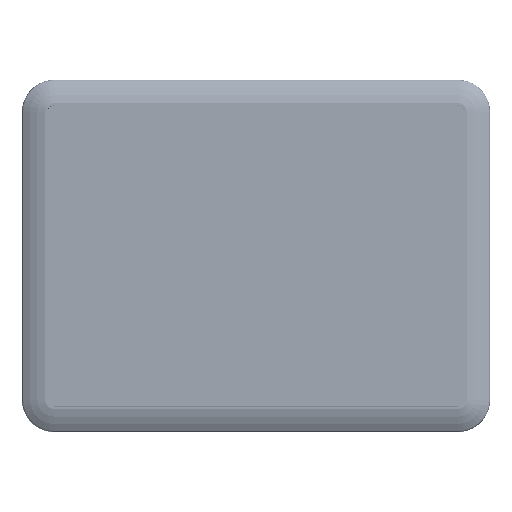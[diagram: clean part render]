
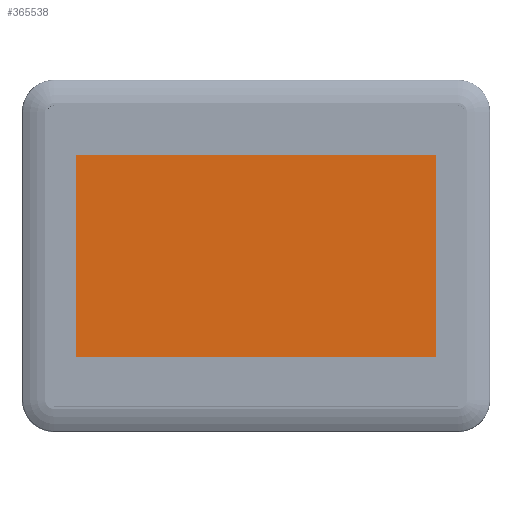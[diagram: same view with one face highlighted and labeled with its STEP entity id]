
A CAD part, top view. The second image highlights one B-rep face of the part: STEP entity #365538.
In plain terms, the highlighted planar face has unit normal (0, 0, 1).
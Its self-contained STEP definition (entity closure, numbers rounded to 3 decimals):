
#197 = ORIENTED_EDGE ( 'NONE', *, *, #184097, .T. ) ;
#7086 = VECTOR ( 'NONE', #463996, 1000. ) ;
#15490 = LINE ( 'NONE', #349137, #7086 ) ;
#39473 = LINE ( 'NONE', #102336, #431614 ) ;
#48813 = ORIENTED_EDGE ( 'NONE', *, *, #399027, .T. ) ;
#102336 = CARTESIAN_POINT ( 'NONE',  ( 77.85, 0., 1.388 ) ) ;
#121057 = VECTOR ( 'NONE', #575183, 1000. ) ;
#122326 = EDGE_CURVE ( 'NONE', #720688, #709010, #460267, .T. ) ;
#134745 = FACE_OUTER_BOUND ( 'NONE', #689350, .T. ) ;
#157110 = VERTEX_POINT ( 'NONE', #329094 ) ;
#184097 = EDGE_CURVE ( 'NONE', #713428, #720688, #39473, .T. ) ;
#197771 = AXIS2_PLACEMENT_3D ( 'NONE', #479361, #360891, #371829 ) ;
#322398 = DIRECTION ( 'NONE',  ( 1., 0., 0. ) ) ;
#324786 = DIRECTION ( 'NONE',  ( 0., 1., 0. ) ) ;
#329094 = CARTESIAN_POINT ( 'NONE',  ( -77.85, -43.75, 1.388 ) ) ;
#349137 = CARTESIAN_POINT ( 'NONE',  ( -77.85, 0., 1.388 ) ) ;
#360891 = DIRECTION ( 'NONE',  ( 0., 0., -1. ) ) ;
#365538 = ADVANCED_FACE ( 'NONE', ( #134745 ), #475712, .F. ) ;
#371829 = DIRECTION ( 'NONE',  ( -1., 0., 0. ) ) ;
#374917 = CARTESIAN_POINT ( 'NONE',  ( 77.85, -43.75, 1.388 ) ) ;
#399027 = EDGE_CURVE ( 'NONE', #157110, #713428, #489208, .T. ) ;
#431614 = VECTOR ( 'NONE', #324786, 1000. ) ;
#448704 = CARTESIAN_POINT ( 'NONE',  ( 77.85, 43.75, 1.388 ) ) ;
#460267 = LINE ( 'NONE', #690039, #121057 ) ;
#463996 = DIRECTION ( 'NONE',  ( 0., -1., 0. ) ) ;
#475712 = PLANE ( 'NONE',  #197771 ) ;
#479361 = CARTESIAN_POINT ( 'NONE',  ( 0., 0., 1.388 ) ) ;
#489208 = LINE ( 'NONE', #711685, #657861 ) ;
#497984 = EDGE_CURVE ( 'NONE', #709010, #157110, #15490, .T. ) ;
#569180 = ORIENTED_EDGE ( 'NONE', *, *, #122326, .T. ) ;
#575183 = DIRECTION ( 'NONE',  ( -1., 0., 0. ) ) ;
#647855 = ORIENTED_EDGE ( 'NONE', *, *, #497984, .T. ) ;
#657861 = VECTOR ( 'NONE', #322398, 1000. ) ;
#689350 = EDGE_LOOP ( 'NONE', ( #569180, #647855, #48813, #197 ) ) ;
#690039 = CARTESIAN_POINT ( 'NONE',  ( 0., 43.75, 1.388 ) ) ;
#700726 = CARTESIAN_POINT ( 'NONE',  ( -77.85, 43.75, 1.388 ) ) ;
#709010 = VERTEX_POINT ( 'NONE', #700726 ) ;
#711685 = CARTESIAN_POINT ( 'NONE',  ( 0., -43.75, 1.388 ) ) ;
#713428 = VERTEX_POINT ( 'NONE', #374917 ) ;
#720688 = VERTEX_POINT ( 'NONE', #448704 ) ;
